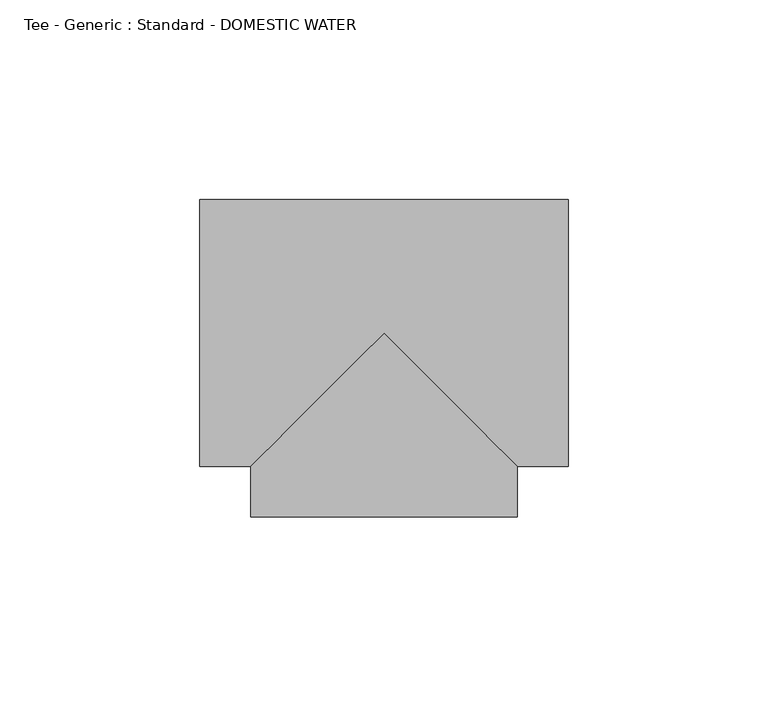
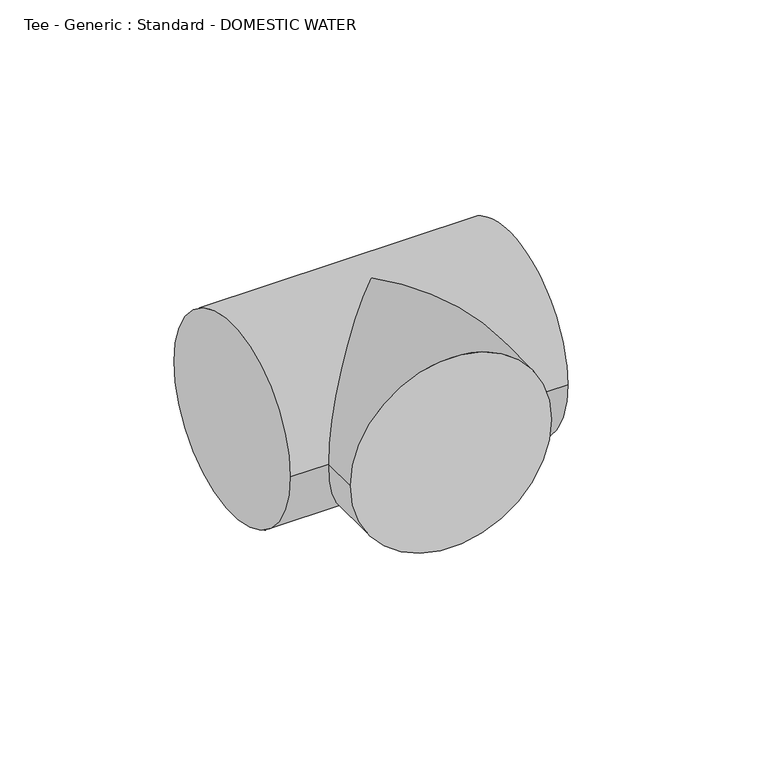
"""IFC4 building model written with IfcOpenShell, lengths in millimetres: pipe fitting geometry, Tee - Generic : Standard - DOMESTIC WATER."""

from ifc_helpers import new_model, si_unit, frame, origin, place, context, project, spatial, circle_curve, ellipse_curve, source, transform, mapped, element, save
from ifc_brep_helpers import plane_surface, cylinder_surface, advanced_brep


def tee_generic_standard_domestic_water_6218b6fb(model_context):
    return source(origin(), model_context, "Body", "AdvancedBrep", [
        advanced_brep(
        [(-46.0375, -33.3375, 0.0), (-46.0375, 33.3375, 0.0), (46.0375, -33.3375, 0.0), (46.0375, 33.3375, 0.0), (-33.3375, -33.3375, 0.0), (0.0, 0.0, 33.3375), (33.3375, -33.3375, 0.0), (0.0, 0.0, -33.3375), (-33.3375, -46.0375, 0.0), (33.3375, -46.0375, 0.0)],
        [
            (0, 1, circle_curve(frame((-46.0375, 0.0, 0.0), z_axis=(-1.0, 0.0, 0.0), x_axis=(0.0, 1.0, 0.0)), 33.3375)),
            (1, 0, circle_curve(frame((-46.0375, 0.0, 0.0), z_axis=(-1.0, 0.0, 0.0), x_axis=(0.0, 1.0, 0.0)), 33.3375)),
            (2, 3, circle_curve(frame((46.0375, 0.0, 0.0), z_axis=(1.0, 0.0, 0.0), x_axis=(0.0, 1.0, 0.0)), 33.3375)),
            (3, 2, circle_curve(frame((46.0375, 0.0, 0.0), z_axis=(1.0, 0.0, 0.0), x_axis=(0.0, 1.0, 0.0)), 33.3375)),
            (0, 4),
            (4, 5, ellipse_curve(frame((0.0, 0.0, 0.0), z_axis=(-0.707106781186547, 0.7071067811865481, 0.0), x_axis=(-0.707106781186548, -0.707106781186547, 0.0)), 47.1463446, 33.3375)),
            (5, 6, ellipse_curve(frame((0.0, 0.0, 0.0), z_axis=(0.707106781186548, 0.7071067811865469, 0.0), x_axis=(-0.707106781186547, 0.707106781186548, 0.0)), 47.1463446, 33.3375)),
            (6, 2),
            (3, 1),
            (6, 7, ellipse_curve(frame((0.0, 0.0, 0.0), z_axis=(0.707106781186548, 0.7071067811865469, 0.0), x_axis=(-0.707106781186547, 0.707106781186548, 0.0)), 47.1463446, 33.3375)),
            (7, 4, ellipse_curve(frame((0.0, 0.0, 0.0), z_axis=(-0.707106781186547, 0.7071067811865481, 0.0), x_axis=(-0.707106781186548, -0.707106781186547, 0.0)), 47.1463446, 33.3375)),
            (8, 9, circle_curve(frame((0.0, -46.0375, 0.0), z_axis=(0.0, -1.0, 0.0), x_axis=(1.0, 0.0, 0.0)), 33.3375)),
            (9, 8, circle_curve(frame((0.0, -46.0375, 0.0), z_axis=(0.0, -1.0, 0.0), x_axis=(1.0, 0.0, 0.0)), 33.3375)),
            (9, 6),
            (4, 8),
        ],
        [
            plane_surface(frame((-46.0375, 0.0, 0.0), z_axis=(-1.0, 0.0, 0.0), x_axis=(0.0, 0.0, 1.0))),
            plane_surface(frame((46.0375, 0.0, 0.0), z_axis=(1.0, 0.0, 0.0), x_axis=(0.0, 0.0, 1.0))),
            cylinder_surface(frame((-46.0375, 0.0, 0.0), z_axis=(-1.0, 0.0, 0.0), x_axis=(0.0, 1.0, 0.0)), 33.3375),
            plane_surface(frame((0.0, -46.0375, 0.0), z_axis=(0.0, -1.0, 0.0), x_axis=(0.0, 0.0, 1.0))),
            cylinder_surface(frame((0.0, 0.0, 0.0), z_axis=(0.0, 1.0, 0.0), x_axis=(1.0, 0.0, 0.0)), 33.3375),
        ],
        [
            (0, [[1, 2]]),
            (1, [[3, 4]]),
            (2, [[-1, 5, 6, 7, 8, -4, 9]]),
            (2, [[-2, -9, -3, -8, 10, 11, -5]]),
            (3, [[12, 13]]),
            (4, [[-13, 14, -7, -6, 15]]),
            (4, [[-12, -15, -11, -10, -14]]),
        ],
    ),
        advanced_brep(
        [(-46.0375, -33.3375, 0.0), (-46.0375, 33.3375, 0.0), (46.0375, -33.3375, 0.0), (46.0375, 33.3375, 0.0), (-33.3375, -33.3375, 0.0), (0.0, 0.0, 33.3375), (33.3375, -33.3375, 0.0), (0.0, 0.0, -33.3375), (-33.3375, -46.0375, 0.0), (33.3375, -46.0375, 0.0)],
        [
            (0, 1, circle_curve(frame((-46.0375, 0.0, 0.0), z_axis=(-1.0, 0.0, 0.0), x_axis=(0.0, 1.0, 0.0)), 33.3375)),
            (1, 0, circle_curve(frame((-46.0375, 0.0, 0.0), z_axis=(-1.0, 0.0, 0.0), x_axis=(0.0, 1.0, 0.0)), 33.3375)),
            (2, 3, circle_curve(frame((46.0375, 0.0, 0.0), z_axis=(1.0, 0.0, 0.0), x_axis=(0.0, 1.0, 0.0)), 33.3375)),
            (3, 2, circle_curve(frame((46.0375, 0.0, 0.0), z_axis=(1.0, 0.0, 0.0), x_axis=(0.0, 1.0, 0.0)), 33.3375)),
            (0, 4),
            (4, 5, ellipse_curve(frame((0.0, 0.0, 0.0), z_axis=(-0.707106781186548, 0.7071067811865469, 0.0), x_axis=(-0.7071067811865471, -0.7071067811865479, 0.0)), 47.1463446, 33.3375)),
            (5, 6, ellipse_curve(frame((0.0, 0.0, 0.0), z_axis=(0.7071067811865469, 0.7071067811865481, 0.0), x_axis=(-0.7071067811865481, 0.7071067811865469, 0.0)), 47.1463446, 33.3375)),
            (6, 2),
            (3, 1),
            (6, 7, ellipse_curve(frame((0.0, 0.0, 0.0), z_axis=(0.7071067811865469, 0.7071067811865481, 0.0), x_axis=(-0.7071067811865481, 0.7071067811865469, 0.0)), 47.1463446, 33.3375)),
            (7, 4, ellipse_curve(frame((0.0, 0.0, 0.0), z_axis=(-0.707106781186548, 0.7071067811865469, 0.0), x_axis=(-0.7071067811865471, -0.7071067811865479, 0.0)), 47.1463446, 33.3375)),
            (8, 9, circle_curve(frame((0.0, -46.0375, 0.0), z_axis=(0.0, -1.0, 0.0), x_axis=(1.0, 0.0, 0.0)), 33.3375)),
            (9, 8, circle_curve(frame((0.0, -46.0375, 0.0), z_axis=(0.0, -1.0, 0.0), x_axis=(1.0, 0.0, 0.0)), 33.3375)),
            (9, 6),
            (4, 8),
        ],
        [
            plane_surface(frame((-46.0375, 0.0, 0.0), z_axis=(-1.0, 0.0, 0.0), x_axis=(0.0, 0.0, 1.0))),
            plane_surface(frame((46.0375, 0.0, 0.0), z_axis=(1.0, 0.0, 0.0), x_axis=(0.0, 0.0, 1.0))),
            cylinder_surface(frame((-46.0375, 0.0, 0.0), z_axis=(-1.0, 0.0, 0.0), x_axis=(0.0, 1.0, 0.0)), 33.3375),
            plane_surface(frame((0.0, -46.0375, 0.0), z_axis=(0.0, -1.0, 0.0), x_axis=(0.0, 0.0, 1.0))),
            cylinder_surface(frame((0.0, 0.0, 0.0), z_axis=(0.0, 1.0, 0.0), x_axis=(1.0, 0.0, 0.0)), 33.3375),
        ],
        [
            (0, [[1, 2]]),
            (1, [[3, 4]]),
            (2, [[-1, 5, 6, 7, 8, -4, 9]]),
            (2, [[-2, -9, -3, -8, 10, 11, -5]]),
            (3, [[12, 13]]),
            (4, [[-13, 14, -7, -6, 15]]),
            (4, [[-12, -15, -11, -10, -14]]),
        ],
    ),
    ])


if __name__ == "__main__":
    model = new_model("IFC4")
    model_context = context("Model", 3, world=origin())
    ifc_project = project(units=[si_unit("LENGTHUNIT", "METRE", prefix="MILLI")], contexts=[model_context])
    site = spatial("IfcSite", under=ifc_project)
    building = spatial("IfcBuilding", under=site)
    placement = place(None, origin())
    tee_generic_standard_domestic_water_shape = tee_generic_standard_domestic_water_6218b6fb(model_context)
    element("IfcPipeFitting", 1, ObjectType="Tee - Generic : Standard - DOMESTIC WATER", at=placement, inside=building, context=model_context, shape_type="MappedRepresentation", body=[
        mapped(tee_generic_standard_domestic_water_shape, transform((0.0, 0.0, 0.0), x_axis=(1.0, 0.0, 0.0), y_axis=(0.0, 1.0, 0.0), z_axis=(0.0, 0.0, 1.0))),
    ])
    save(model, "model.ifc")
